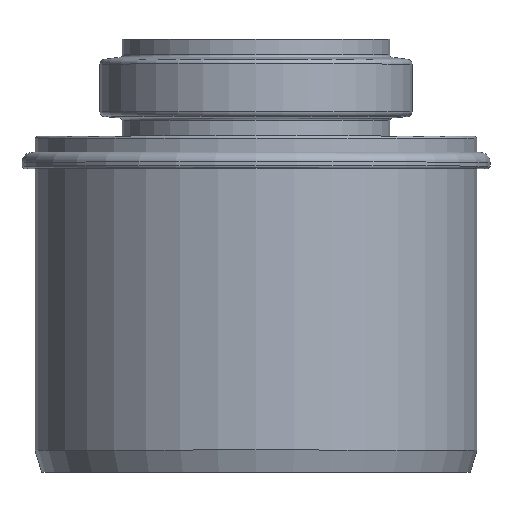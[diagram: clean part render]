
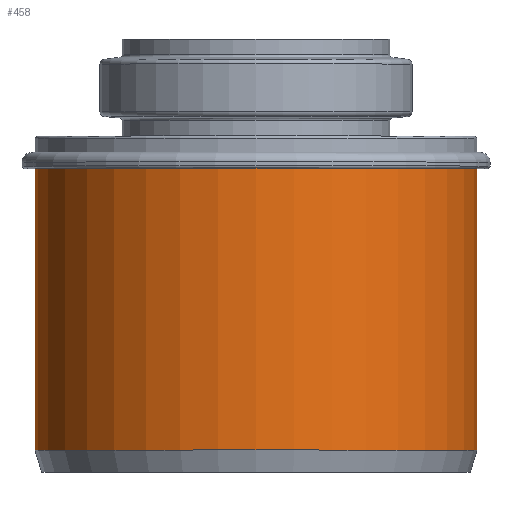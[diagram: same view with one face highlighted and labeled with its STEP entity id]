
A CAD part, top view. The second image highlights one B-rep face of the part: STEP entity #458.
In plain terms, the highlighted cylindrical face has radius 45.1 mm (diameter 90.2 mm), a full revolution.
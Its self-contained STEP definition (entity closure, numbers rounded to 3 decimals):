
#43=CYLINDRICAL_SURFACE($,#534,45.1);
#76=FACE_BOUND($,#173,.T.);
#109=FACE_OUTER_BOUND($,#172,.T.);
#172=EDGE_LOOP($,(#374));
#173=EDGE_LOOP($,(#375));
#179=CIRCLE($,#469,45.1);
#212=CIRCLE($,#532,45.1);
#217=VERTEX_POINT($,#698);
#250=VERTEX_POINT($,#798);
#255=EDGE_CURVE($,#217,#217,#179,.T.);
#292=EDGE_CURVE($,#250,#250,#212,.T.);
#374=ORIENTED_EDGE($,*,*,#255,.F.);
#375=ORIENTED_EDGE($,*,*,#292,.F.);
#458=ADVANCED_FACE($,(#109,#76),#43,.T.);
#469=AXIS2_PLACEMENT_3D($,#699,#550,#551);
#532=AXIS2_PLACEMENT_3D($,#799,#680,#681);
#534=AXIS2_PLACEMENT_3D($,#802,#684,#685);
#550=DIRECTION('center_axis',(0.,1.,0.));
#551=DIRECTION('ref_axis',(1.,0.,0.));
#680=DIRECTION('center_axis',(0.,-1.,0.));
#681=DIRECTION('ref_axis',(1.,0.,0.));
#684=DIRECTION('center_axis',(0.,1.,0.));
#685=DIRECTION('ref_axis',(1.,0.,0.));
#698=CARTESIAN_POINT('',(-45.1,62.,0.));
#699=CARTESIAN_POINT('Origin',(0.,62.,0.));
#798=CARTESIAN_POINT('',(-45.1,4.5,0.));
#799=CARTESIAN_POINT('Origin',(0.,4.5,0.));
#802=CARTESIAN_POINT('Origin',(0.,0.,0.));
